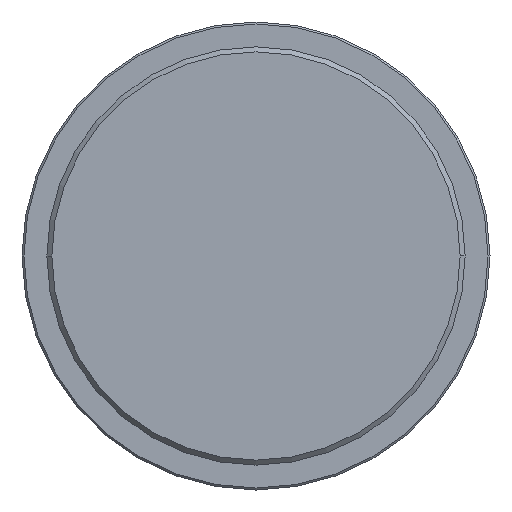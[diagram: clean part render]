
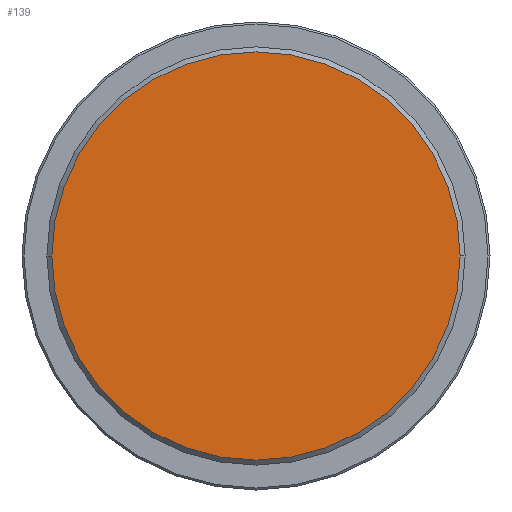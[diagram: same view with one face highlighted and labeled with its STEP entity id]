
A CAD part, left-side view. The second image highlights one B-rep face of the part: STEP entity #139.
In plain terms, the highlighted planar face has unit normal (-1, 0, 0).
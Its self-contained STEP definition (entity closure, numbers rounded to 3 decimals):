
#133 = ORIENTED_EDGE ( 'NONE', *, *, #1300, .T. ) ;
#139 = ADVANCED_FACE ( 'NONE', ( #260 ), #277, .T. ) ;
#141 = EDGE_CURVE ( 'NONE', #1301, #1402, #271, .T. ) ;
#142 = ORIENTED_EDGE ( 'NONE', *, *, #141, .T. ) ;
#143 = EDGE_LOOP ( 'NONE', ( #142, #133 ) ) ;
#260 = FACE_OUTER_BOUND ( 'NONE', #143, .T. ) ;
#267 = DIRECTION ( 'NONE',  ( -1., 0., 0. ) ) ;
#269 = DIRECTION ( 'NONE',  ( 0., -1., 0. ) ) ;
#270 = DIRECTION ( 'NONE',  ( -1., 0., 0. ) ) ;
#271 = CIRCLE ( 'NONE', #282, 20.5 ) ;
#272 = CARTESIAN_POINT ( 'NONE',  ( -145., 21., 0. ) ) ;
#276 = CARTESIAN_POINT ( 'NONE',  ( -145., 0., 0. ) ) ;
#277 = PLANE ( 'NONE',  #280 ) ;
#279 = DIRECTION ( 'NONE',  ( 0., -1., 0. ) ) ;
#280 = AXIS2_PLACEMENT_3D ( 'NONE', #272, #267, #269 ) ;
#282 = AXIS2_PLACEMENT_3D ( 'NONE', #276, #270, #279 ) ;
#519 = CARTESIAN_POINT ( 'NONE',  ( -145., -20.5, 0. ) ) ;
#1261 = CARTESIAN_POINT ( 'NONE',  ( -145., 20.5, 0. ) ) ;
#1300 = EDGE_CURVE ( 'NONE', #1402, #1301, #1731, .T. ) ;
#1301 = VERTEX_POINT ( 'NONE', #1261 ) ;
#1402 = VERTEX_POINT ( 'NONE', #519 ) ;
#1712 = DIRECTION ( 'NONE',  ( 0., -1., 0. ) ) ;
#1728 = DIRECTION ( 'NONE',  ( -1., 0., 0. ) ) ;
#1729 = CARTESIAN_POINT ( 'NONE',  ( -145., 0., 0. ) ) ;
#1730 = AXIS2_PLACEMENT_3D ( 'NONE', #1729, #1728, #1712 ) ;
#1731 = CIRCLE ( 'NONE', #1730, 20.5 ) ;
